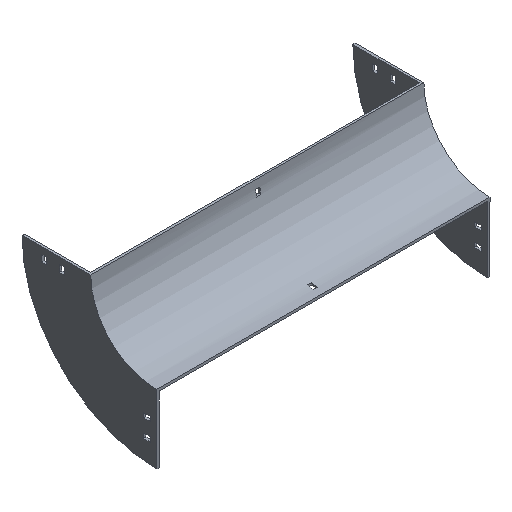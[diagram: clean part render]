
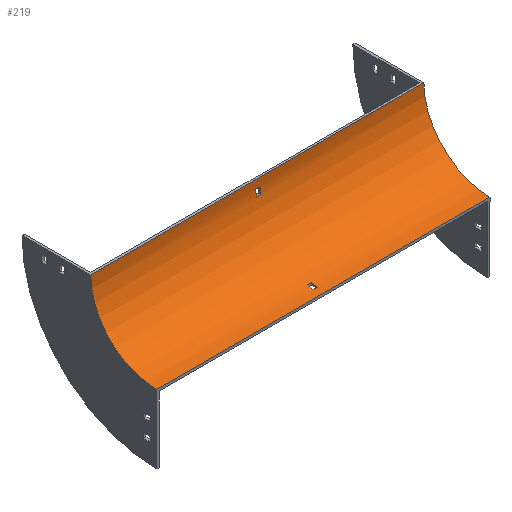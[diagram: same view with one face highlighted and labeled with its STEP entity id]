
A CAD part, isometric view. The second image highlights one B-rep face of the part: STEP entity #219.
In plain terms, the highlighted cylindrical face has radius 100 mm (diameter 200 mm), a partial arc.
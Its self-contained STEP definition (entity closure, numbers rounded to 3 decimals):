
#1 = CIRCLE ( 'NONE', #1284, 100. ) ;
#5 = DIRECTION ( 'NONE',  ( 0., 0., 1. ) ) ;
#6 = VERTEX_POINT ( 'NONE', #665 ) ;
#11 = CARTESIAN_POINT ( 'NONE',  ( 3.25, -0.723, -12. ) ) ;
#50 = VECTOR ( 'NONE', #187, 1000. ) ;
#57 = DIRECTION ( 'NONE',  ( -1., 0., 0. ) ) ;
#72 = CIRCLE ( 'NONE', #402, 100. ) ;
#75 = AXIS2_PLACEMENT_3D ( 'NONE', #1665, #468, #852 ) ;
#83 = VECTOR ( 'NONE', #1678, 1000. ) ;
#89 = ORIENTED_EDGE ( 'NONE', *, *, #1157, .T. ) ;
#112 = VERTEX_POINT ( 'NONE', #810 ) ;
#115 = VECTOR ( 'NONE', #1200, 1000. ) ;
#121 = DIRECTION ( 'NONE',  ( 0., 0., 1. ) ) ;
#122 = CARTESIAN_POINT ( 'NONE',  ( 3.25, -88., -99.277 ) ) ;
#148 = CARTESIAN_POINT ( 'NONE',  ( -3.25, -2.23, -21. ) ) ;
#184 = VERTEX_POINT ( 'NONE', #872 ) ;
#187 = DIRECTION ( 'NONE',  ( -1., 0., 0. ) ) ;
#198 = FACE_OUTER_BOUND ( 'NONE', #958, .T. ) ;
#219 = ADVANCED_FACE ( 'NONE', ( #198, #1240, #1110 ), #991, .F. ) ;
#248 = ORIENTED_EDGE ( 'NONE', *, *, #1085, .F. ) ;
#267 = LINE ( 'NONE', #928, #1364 ) ;
#271 = CARTESIAN_POINT ( 'NONE',  ( -3.25, -0.723, -12. ) ) ;
#308 = VERTEX_POINT ( 'NONE', #148 ) ;
#309 = EDGE_CURVE ( 'NONE', #465, #184, #72, .T. ) ;
#310 = AXIS2_PLACEMENT_3D ( 'NONE', #476, #582, #1488 ) ;
#339 = CARTESIAN_POINT ( 'NONE',  ( 252., -100., 0. ) ) ;
#355 = ORIENTED_EDGE ( 'NONE', *, *, #570, .T. ) ;
#360 = ORIENTED_EDGE ( 'NONE', *, *, #1658, .F. ) ;
#402 = AXIS2_PLACEMENT_3D ( 'NONE', #1017, #1533, #5 ) ;
#465 = VERTEX_POINT ( 'NONE', #1070 ) ;
#468 = DIRECTION ( 'NONE',  ( -1., 0., 0. ) ) ;
#476 = CARTESIAN_POINT ( 'NONE',  ( 3.25, -100., 0. ) ) ;
#496 = EDGE_CURVE ( 'NONE', #1088, #1500, #826, .T. ) ;
#531 = LINE ( 'NONE', #677, #115 ) ;
#554 = ORIENTED_EDGE ( 'NONE', *, *, #496, .F. ) ;
#556 = CARTESIAN_POINT ( 'NONE',  ( -3.25, -88., -99.277 ) ) ;
#566 = CIRCLE ( 'NONE', #1520, 100. ) ;
#570 = EDGE_CURVE ( 'NONE', #6, #308, #1636, .T. ) ;
#573 = CIRCLE ( 'NONE', #594, 100. ) ;
#582 = DIRECTION ( 'NONE',  ( 1., 0., 0. ) ) ;
#585 = EDGE_CURVE ( 'NONE', #112, #1249, #566, .T. ) ;
#594 = AXIS2_PLACEMENT_3D ( 'NONE', #1283, #886, #121 ) ;
#595 = CARTESIAN_POINT ( 'NONE',  ( 3.25, -100., 0. ) ) ;
#613 = LINE ( 'NONE', #1538, #1123 ) ;
#631 = ORIENTED_EDGE ( 'NONE', *, *, #1000, .T. ) ;
#665 = CARTESIAN_POINT ( 'NONE',  ( 3.25, -2.23, -21. ) ) ;
#670 = EDGE_CURVE ( 'NONE', #1181, #1088, #1648, .T. ) ;
#677 = CARTESIAN_POINT ( 'NONE',  ( 252., -88., -99.277 ) ) ;
#717 = DIRECTION ( 'NONE',  ( -1., 0., 0. ) ) ;
#728 = DIRECTION ( 'NONE',  ( -1., 0., 0. ) ) ;
#737 = CARTESIAN_POINT ( 'NONE',  ( 252., -2.23, -21. ) ) ;
#787 = CARTESIAN_POINT ( 'NONE',  ( -252., -100., -100. ) ) ;
#805 = VERTEX_POINT ( 'NONE', #271 ) ;
#810 = CARTESIAN_POINT ( 'NONE',  ( -252., 0., 0. ) ) ;
#814 = DIRECTION ( 'NONE',  ( 1., 0., 0. ) ) ;
#826 = LINE ( 'NONE', #1610, #50 ) ;
#829 = ORIENTED_EDGE ( 'NONE', *, *, #1300, .T. ) ;
#852 = DIRECTION ( 'NONE',  ( 0., 1., 0. ) ) ;
#867 = VERTEX_POINT ( 'NONE', #556 ) ;
#872 = CARTESIAN_POINT ( 'NONE',  ( 252., -100., -100. ) ) ;
#882 = VERTEX_POINT ( 'NONE', #11 ) ;
#886 = DIRECTION ( 'NONE',  ( 1., 0., 0. ) ) ;
#928 = CARTESIAN_POINT ( 'NONE',  ( 252., -0.723, -12. ) ) ;
#958 = EDGE_LOOP ( 'NONE', ( #1080, #248, #1147, #89 ) ) ;
#991 = CYLINDRICAL_SURFACE ( 'NONE', #1137, 100. ) ;
#1000 = EDGE_CURVE ( 'NONE', #882, #6, #1, .T. ) ;
#1017 = CARTESIAN_POINT ( 'NONE',  ( 252., -100., 0. ) ) ;
#1018 = EDGE_LOOP ( 'NONE', ( #360, #554, #1159, #1527 ) ) ;
#1070 = CARTESIAN_POINT ( 'NONE',  ( 252., 0., 0. ) ) ;
#1080 = ORIENTED_EDGE ( 'NONE', *, *, #585, .T. ) ;
#1085 = EDGE_CURVE ( 'NONE', #184, #1249, #1164, .T. ) ;
#1088 = VERTEX_POINT ( 'NONE', #1428 ) ;
#1110 = FACE_BOUND ( 'NONE', #1018, .T. ) ;
#1117 = DIRECTION ( 'NONE',  ( -1., 0., 0. ) ) ;
#1123 = VECTOR ( 'NONE', #1411, 1000. ) ;
#1137 = AXIS2_PLACEMENT_3D ( 'NONE', #339, #728, #1234 ) ;
#1147 = ORIENTED_EDGE ( 'NONE', *, *, #309, .F. ) ;
#1157 = EDGE_CURVE ( 'NONE', #465, #112, #613, .T. ) ;
#1159 = ORIENTED_EDGE ( 'NONE', *, *, #670, .F. ) ;
#1164 = LINE ( 'NONE', #1418, #83 ) ;
#1181 = VERTEX_POINT ( 'NONE', #122 ) ;
#1199 = EDGE_CURVE ( 'NONE', #867, #1181, #531, .T. ) ;
#1200 = DIRECTION ( 'NONE',  ( 1., 0., 0. ) ) ;
#1214 = ORIENTED_EDGE ( 'NONE', *, *, #1526, .T. ) ;
#1227 = CIRCLE ( 'NONE', #75, 100. ) ;
#1234 = DIRECTION ( 'NONE',  ( 0., 0., 1. ) ) ;
#1237 = DIRECTION ( 'NONE',  ( 0., 0., -1. ) ) ;
#1240 = FACE_BOUND ( 'NONE', #1679, .T. ) ;
#1249 = VERTEX_POINT ( 'NONE', #787 ) ;
#1283 = CARTESIAN_POINT ( 'NONE',  ( -3.25, -100., 0. ) ) ;
#1284 = AXIS2_PLACEMENT_3D ( 'NONE', #595, #717, #1237 ) ;
#1300 = EDGE_CURVE ( 'NONE', #805, #882, #267, .T. ) ;
#1309 = VECTOR ( 'NONE', #57, 1000. ) ;
#1364 = VECTOR ( 'NONE', #814, 1000. ) ;
#1389 = CARTESIAN_POINT ( 'NONE',  ( -252., -100., 0. ) ) ;
#1411 = DIRECTION ( 'NONE',  ( -1., 0., 0. ) ) ;
#1418 = CARTESIAN_POINT ( 'NONE',  ( 252., -100., -100. ) ) ;
#1428 = CARTESIAN_POINT ( 'NONE',  ( 3.25, -79., -97.77 ) ) ;
#1488 = DIRECTION ( 'NONE',  ( 0., -1., 0. ) ) ;
#1500 = VERTEX_POINT ( 'NONE', #1669 ) ;
#1520 = AXIS2_PLACEMENT_3D ( 'NONE', #1389, #1117, #1625 ) ;
#1526 = EDGE_CURVE ( 'NONE', #308, #805, #573, .T. ) ;
#1527 = ORIENTED_EDGE ( 'NONE', *, *, #1199, .F. ) ;
#1533 = DIRECTION ( 'NONE',  ( -1., 0., 0. ) ) ;
#1538 = CARTESIAN_POINT ( 'NONE',  ( 252., 0., 0. ) ) ;
#1610 = CARTESIAN_POINT ( 'NONE',  ( 252., -79., -97.77 ) ) ;
#1625 = DIRECTION ( 'NONE',  ( 0., 0., 1. ) ) ;
#1636 = LINE ( 'NONE', #737, #1309 ) ;
#1648 = CIRCLE ( 'NONE', #310, 100. ) ;
#1658 = EDGE_CURVE ( 'NONE', #1500, #867, #1227, .T. ) ;
#1665 = CARTESIAN_POINT ( 'NONE',  ( -3.25, -100., 0. ) ) ;
#1669 = CARTESIAN_POINT ( 'NONE',  ( -3.25, -79., -97.77 ) ) ;
#1678 = DIRECTION ( 'NONE',  ( -1., 0., 0. ) ) ;
#1679 = EDGE_LOOP ( 'NONE', ( #355, #1214, #829, #631 ) ) ;
